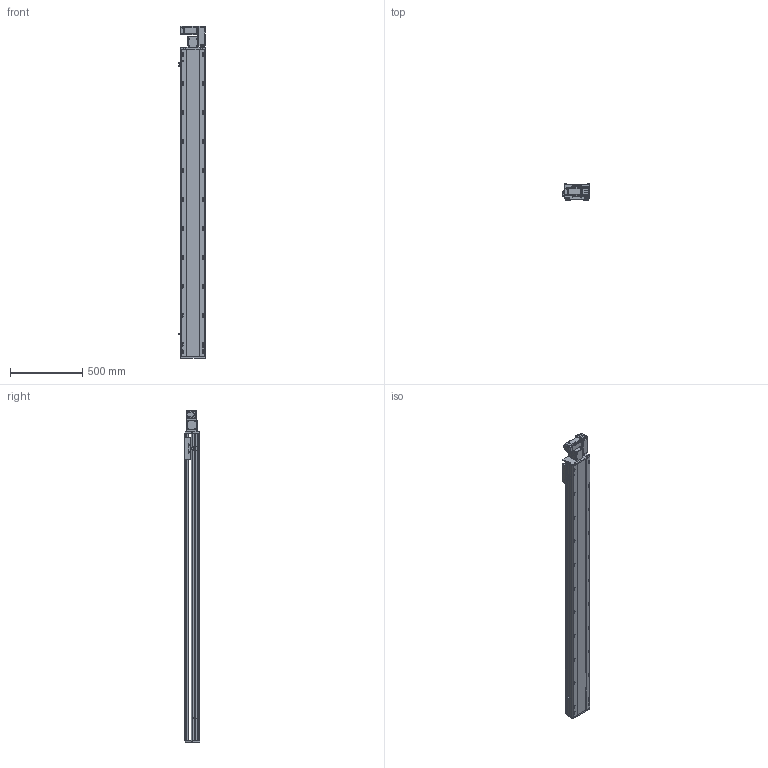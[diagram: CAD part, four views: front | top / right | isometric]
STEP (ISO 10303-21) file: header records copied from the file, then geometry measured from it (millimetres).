
FILE_DESCRIPTION (( 'STEP AP214' ), '1' );
FILE_NAME ('RTB17S-XX-1850-R-M40-C4.STEP', '2025-12-11T07:42:59', ( '' ), ( '' ), 'SwSTEP 2.0', 'SolidWorks 2018', '' );
FILE_SCHEMA (( 'AUTOMOTIVE_DESIGN' ));
Length unit declared in the file: millimetre
Products named in the file (14): RTB17S-L-001耜醱啣^RTB17S-XX-XX-R-M40-C4; 400W侜督萇儂^RTB17S-XX-XX-R-M40-C4; RTB17S-L-004佪裝蹟譫蟀諉釱^RTB17S-XX-XX-R-M40-C4; RTB17S-XX-1850-R-M40-C4; RTB17S-L-007奻裔^RTB17S-XX-XX-R-M40-C4; OMRON EE-SX672 传感器^RTB17S-XX-XX-R-M40-C4; RTB14-L-008-M20--萇儂啣^RTB17S-R-々湍釱蚾饜-400W_RTB17S-XX-XX-R-M40-C4; RTB17S-L-014-T20--々湍釱^RTB17S-R-々湍釱蚾饜-400W_RTB17S-XX-XX-R-M40-C4; RTB14-L-018P^RTB17S-R-々湍釱蚾饜-400W_RTB17S-XX-XX-R-M40-C4; RTB14-L-005P--轴承塑胶压盖^RTB17S-R-皮带座装配-400W_RTB17S-XX-XX-R-M40-C4; RTH13-BL-012覜茼え俋离^RTB17S-XX-XX-R-M40-C4; RTB17S-R-々湍釱蚾饜-400W^RTB17S-XX-XX-R-M40-C4; RTB14-L-017P^RTB17S-R-々湍釱蚾饜-400W_RTB17S-XX-XX-R-M40-C4; RTB17-R-011菁釱^RTB17S-XX-XX-R-M40-C4
Assembly tree (16 placements, depth 3):
  RTB17S-XX-1850-R-M40-C4
    RTB17-R-011菁釱^RTB17S-XX-XX-R-M40-C4
    RTB17S-L-007奻裔^RTB17S-XX-XX-R-M40-C4
    OMRON EE-SX672 传感器^RTB17S-XX-XX-R-M40-C4  x3
    RTB17S-L-001耜醱啣^RTB17S-XX-XX-R-M40-C4
    400W侜督萇儂^RTB17S-XX-XX-R-M40-C4
    RTB17S-L-004佪裝蹟譫蟀諉釱^RTB17S-XX-XX-R-M40-C4
    RTH13-BL-012覜茼え俋离^RTB17S-XX-XX-R-M40-C4
    RTB17S-R-々湍釱蚾饜-400W^RTB17S-XX-XX-R-M40-C4
      RTB17S-L-014-T20--々湍釱^RTB17S-R-々湍釱蚾饜-400W_RTB17S-XX-XX-R-M40-C4
      RTB14-L-005P--轴承塑胶压盖^RTB17S-R-皮带座装配-400W_RTB17S-XX-XX-R-M40-C4
      RTB14-L-008-M20--萇儂啣^RTB17S-R-々湍釱蚾饜-400W_RTB17S-XX-XX-R-M40-C4
      RTB14-L-017P^RTB17S-R-々湍釱蚾饜-400W_RTB17S-XX-XX-R-M40-C4  x2
      RTB14-L-018P^RTB17S-R-々湍釱蚾饜-400W_RTB17S-XX-XX-R-M40-C4
Bounding box: 183.5 x 108 x 2291 mm (x, y, z)
Volume: 19300792.9 mm3; surface area: 2255761.1 mm2
Topology: 15 solids, 15 shells, 2285 faces, 6357 edges, 4149 vertices
Faces by surface type: plane 1078, cylinder 759, bspline 301, cone 139, torus 8
Entity records: 66473 total; most frequent: CARTESIAN_POINT 18762, ORIENTED_EDGE 9558, DIRECTION 8846, EDGE_CURVE 4779, VERTEX_POINT 3137, AXIS2_PLACEMENT_3D 3067, LINE 2712, VECTOR 2712
